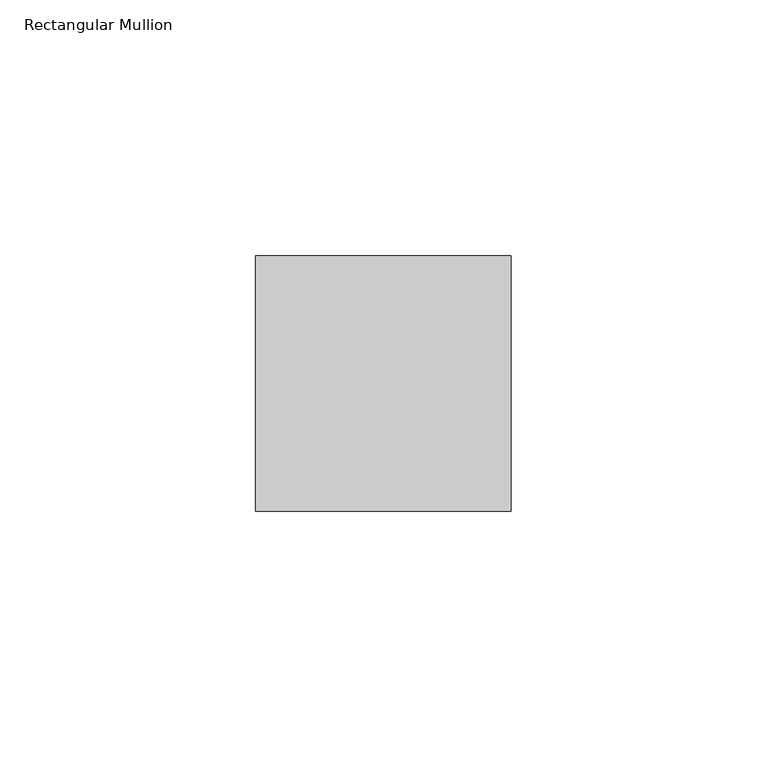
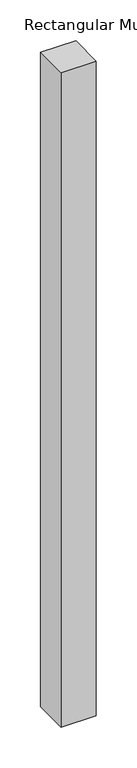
"""IFC4 building model written with IfcOpenShell, lengths in millimetres: member geometry, Rectangular Mullion : ARQ_REJA_MULL_50x50mm."""

from ifc_helpers import new_model, si_unit, frame, origin, place, context, project, spatial, polyline, outline, extrude, source, transform, mapped, element, save


def rectangular_mullion_f37d23f4(model_context):
    return source(origin(), model_context, "Body", "SweptSolid", [
        extrude(outline(polyline([(0.0, 25.0), (0.0, -25.0), (-50.0, -25.0), (-50.0, 25.0), (0.0, 25.0)])), frame((0.0, 0.0, -980.0), z_axis=(0.0, 0.0, 1.0), x_axis=(1.0, 0.0, 0.0)), (0.0, 0.0, 1.0), 980.0),
    ])


if __name__ == "__main__":
    model = new_model("IFC4")
    model_context = context("Model", 3, world=origin())
    ifc_project = project(units=[si_unit("LENGTHUNIT", "METRE", prefix="MILLI")], contexts=[model_context])
    site = spatial("IfcSite", under=ifc_project)
    building = spatial("IfcBuilding", under=site)
    placement = place(None, origin())
    rectangular_mullion_shape = rectangular_mullion_f37d23f4(model_context)
    element("IfcMember", 1, ObjectType="Rectangular Mullion : ARQ_REJA_MULL_50x50mm", at=placement, inside=building, context=model_context, shape_type="MappedRepresentation", body=[
        mapped(rectangular_mullion_shape, transform((0.0, 0.0, 0.0), x_axis=(1.0, 0.0, 0.0), y_axis=(0.0, 1.0, 0.0), z_axis=(0.0, 0.0, 1.0))),
    ])
    save(model, "model.ifc")
